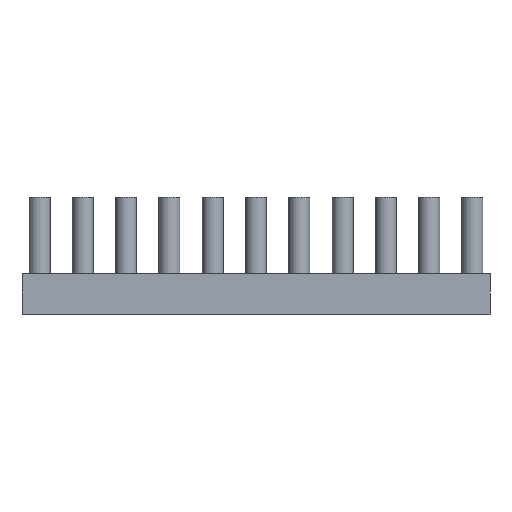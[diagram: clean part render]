
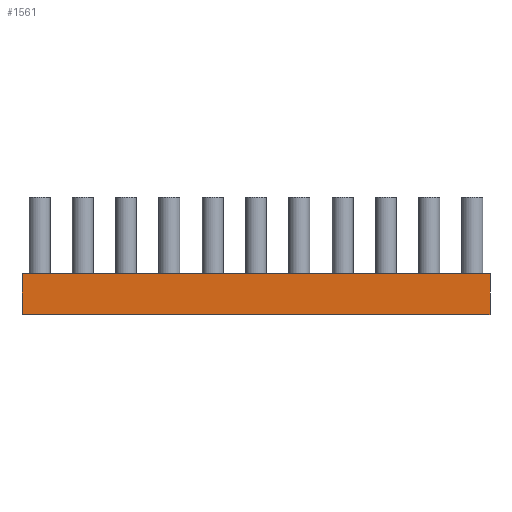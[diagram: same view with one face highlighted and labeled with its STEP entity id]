
A CAD part, front view. The second image highlights one B-rep face of the part: STEP entity #1561.
In plain terms, the highlighted planar face has unit normal (0, -1, 0).
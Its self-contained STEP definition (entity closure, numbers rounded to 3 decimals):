
#355 = DIRECTION ( 'NONE',  ( 1., 0., 0. ) ) ;
#709 = CARTESIAN_POINT ( 'NONE',  ( -1.5, -1.5, -3.5 ) ) ;
#1088 = CARTESIAN_POINT ( 'NONE',  ( -1.5, -1.5, -3.5 ) ) ;
#1417 = AXIS2_PLACEMENT_3D ( 'NONE', #4881, #6476, #1883 ) ;
#1526 = VECTOR ( 'NONE', #5848, 1000. ) ;
#1561 = ADVANCED_FACE ( 'NONE', ( #3970 ), #4144, .T. ) ;
#1883 = DIRECTION ( 'NONE',  ( 1., 0., 0. ) ) ;
#2035 = VECTOR ( 'NONE', #8714, 1000. ) ;
#2719 = LINE ( 'NONE', #6800, #6558 ) ;
#2897 = CARTESIAN_POINT ( 'NONE',  ( -1.5, -1.5, 0. ) ) ;
#2920 = CARTESIAN_POINT ( 'NONE',  ( 38.5, -1.5, -3.5 ) ) ;
#3312 = ORIENTED_EDGE ( 'NONE', *, *, #8732, .F. ) ;
#3644 = VERTEX_POINT ( 'NONE', #2920 ) ;
#3690 = VERTEX_POINT ( 'NONE', #709 ) ;
#3970 = FACE_OUTER_BOUND ( 'NONE', #8766, .T. ) ;
#4068 = LINE ( 'NONE', #1088, #2035 ) ;
#4144 = PLANE ( 'NONE',  #1417 ) ;
#4547 = DIRECTION ( 'NONE',  ( 0., 0., 1. ) ) ;
#4881 = CARTESIAN_POINT ( 'NONE',  ( -1.5, -1.5, -3.5 ) ) ;
#5067 = CARTESIAN_POINT ( 'NONE',  ( -1.5, -1.5, -3.5 ) ) ;
#5681 = CARTESIAN_POINT ( 'NONE',  ( -1.5, -1.5, 0. ) ) ;
#5809 = LINE ( 'NONE', #5067, #1526 ) ;
#5848 = DIRECTION ( 'NONE',  ( 0., 0., 1. ) ) ;
#6476 = DIRECTION ( 'NONE',  ( 0., -1., 0. ) ) ;
#6558 = VECTOR ( 'NONE', #4547, 1000. ) ;
#6800 = CARTESIAN_POINT ( 'NONE',  ( 38.5, -1.5, -3.5 ) ) ;
#7339 = ORIENTED_EDGE ( 'NONE', *, *, #8461, .T. ) ;
#8405 = ORIENTED_EDGE ( 'NONE', *, *, #9477, .T. ) ;
#8420 = ORIENTED_EDGE ( 'NONE', *, *, #8844, .F. ) ;
#8461 = EDGE_CURVE ( 'NONE', #3644, #9040, #2719, .T. ) ;
#8561 = LINE ( 'NONE', #5681, #8797 ) ;
#8714 = DIRECTION ( 'NONE',  ( 1., 0., 0. ) ) ;
#8732 = EDGE_CURVE ( 'NONE', #9172, #9040, #8561, .T. ) ;
#8766 = EDGE_LOOP ( 'NONE', ( #3312, #8420, #8405, #7339 ) ) ;
#8797 = VECTOR ( 'NONE', #355, 1000. ) ;
#8844 = EDGE_CURVE ( 'NONE', #3690, #9172, #5809, .T. ) ;
#9040 = VERTEX_POINT ( 'NONE', #9593 ) ;
#9172 = VERTEX_POINT ( 'NONE', #2897 ) ;
#9477 = EDGE_CURVE ( 'NONE', #3690, #3644, #4068, .T. ) ;
#9593 = CARTESIAN_POINT ( 'NONE',  ( 38.5, -1.5, 0. ) ) ;
